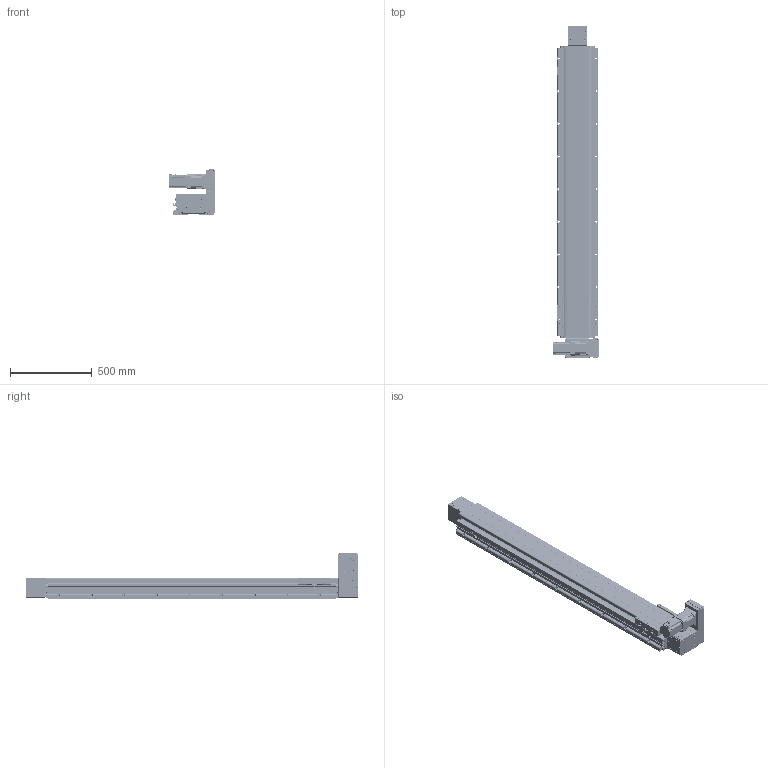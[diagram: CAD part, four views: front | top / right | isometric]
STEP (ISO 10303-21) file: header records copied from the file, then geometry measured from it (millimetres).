
FILE_DESCRIPTION(/* description */ (''),/* implementation_level */ '2;1');
FILE_NAME(/* name */ '\\192.168.0.160\disk1\HAN SHIN Master\B-설계부문\C-표준\B-2024년\BC02-표준도면\+로봇 개선표준도면\홈페이지 표준 도면\홈페이지 최종 작업 폴더\3D\HSB\HSB210\UR\HSB210-UR7G-N-1500-L.stp',/* time_stamp */ '2025-06-19T09:33:49+09:00',/* author */ ('user'),/* organization */ (''),/* preprocessor_version */ 'ST-DEVELOPER v18.1',/* originating_system */ 'Autodesk Inventor 2022',/* authorisation */ '');
FILE_SCHEMA (('AUTOMOTIVE_DESIGN { 1 0 10303 214 3 1 1 }'));
Products named in the file (37): HSB210-UR7G-N-0500-L; HSB210 BASE - 2000ST; HSB210 FORNT HOUSUNG-Connecting Shaft; HSB210 FRONT COVER; REAR HOUSUNG-1-R1; HSB160 ARC COVER; HSB160 REAR SHAFT-2; REAR SHAFT--2; 6004ZZ; 6004ZZ Outer ring; 6004ZZ Shield1; 6004ZZ Inner ring; 6004ZZ Ball; 6004ZZ Shield2; UPCOVER; SIDE COVER; hsr_ftht_A-M6F_grease_nipple_joint; NIPPLE CAP(신규); TENSION PLATE; HG90STOPPER - 27L; HSB210 TABLE (TEST); HSB160 BEARING OVER; HSB210 END COVER-1; HSB160 SHAFT-1; 6308ZZ; HR200 SENSOR DOG; SENSOR BRK(EE-SX674A); EE_SX674A; hg-kr73_; PGX90-H-1_3; HSB210 U MOTOR PLATE ASSY; HSB210 D BELT COVER-R1; HG200DACRYLCOVER003; 750W MOTOR PLATE; HSB210 U BELT COVER; HG200DACRYLCOVER001; HG200DACRYLCOVER002
Assembly tree (70 placements, depth 3):
  HSB210-UR7G-N-0500-L
    HSB210 BASE - 2000ST
    HSB210 FRONT COVER  x2
    HSB210 FORNT HOUSUNG-Connecting Shaft
    HSB160 ARC COVER  x4
    REAR HOUSUNG-1-R1
    HSB160 REAR SHAFT-2
    REAR SHAFT--2
    6004ZZ  x2
      6004ZZ Outer ring
      6004ZZ Shield1
      6004ZZ Inner ring
      6004ZZ Ball
      6004ZZ Shield2
    TENSION PLATE  x2
    UPCOVER
    SIDE COVER  x2
    HG90STOPPER - 27L  x4
    NIPPLE CAP(신규)  x4
    hsr_ftht_A-M6F_grease_nipple_joint  x4
    HSB210 TABLE (TEST)
    HSB160 BEARING OVER
    HSB210 END COVER-1
    HSB160 SHAFT-1
    6308ZZ  x2
    SENSOR BRK(EE-SX674A)  x3
    EE_SX674A  x3
    HR200 SENSOR DOG
    hg-kr73_
    PGX90-H-1_3
    HSB210 U MOTOR PLATE ASSY
      HSB210 D BELT COVER-R1
      HG200DACRYLCOVER003
      750W MOTOR PLATE
      HSB210 U BELT COVER
      HG200DACRYLCOVER001
      HG200DACRYLCOVER002  x2
Bounding box: 284.5 x 2034 x 278.5 mm (x, y, z)
Volume: 19339979.7 mm3; surface area: 4253488.4 mm2
Topology: 131 solids, 133 shells, 8017 faces, 22321 edges, 14741 vertices
Faces by surface type: plane 6049, cylinder 1412, cone 388, sphere 84, torus 59, bspline 25
Full cylindrical faces by diameter (mm): 2.013 x2, 2.459 x50, 3 x8, 3.2 x4, 3.242 x48, 3.4 x22, 3.5 x6, 4.134 x2, 4.2 x16, 4.5 x36, 4.917 x36, 5 x56, 5.1 x1, 5.5 x13, 5.6 x4, 5.9 x4, 6 x15, 6.5 x9, 6.6 x8, 6.647 x48, 6.8 x9, 7 x20, 7.6 x4, 8 x13, 8.433 x2, 9 x46, 9.5 x7, 10 x5, 10.106 x18, 11 x20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
Entity records: 175657 total; most frequent: CARTESIAN_POINT 34162, ORIENTED_EDGE 29312, DIRECTION 28104, EDGE_CURVE 14656, LINE 11356, VECTOR 11356, VERTEX_POINT 9766, AXIS2_PLACEMENT_3D 8374
